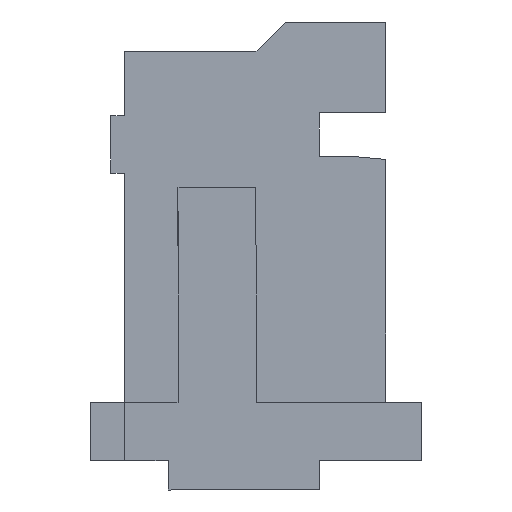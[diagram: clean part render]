
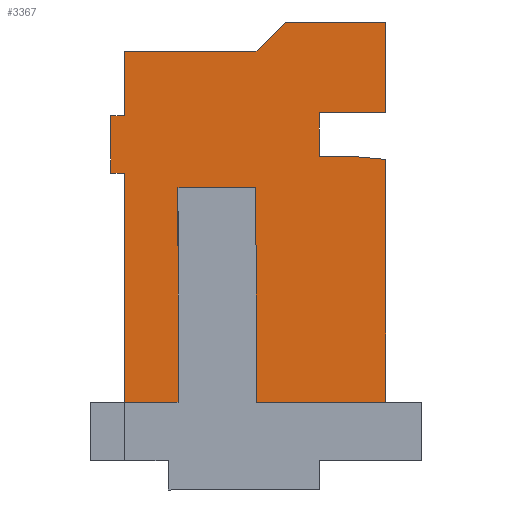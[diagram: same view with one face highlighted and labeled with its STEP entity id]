
A CAD part, left-side view. The second image highlights one B-rep face of the part: STEP entity #3367.
In plain terms, the highlighted planar face has unit normal (-1, 0, 0).
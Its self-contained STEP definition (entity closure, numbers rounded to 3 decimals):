
#208 = CARTESIAN_POINT ( 'NONE',  ( -3.2, -1.78, -2.7 ) ) ;
#209 = DIRECTION ( 'NONE',  ( 0., 0., 1. ) ) ;
#210 = VECTOR ( 'NONE', #209, 1000. ) ;
#211 = CARTESIAN_POINT ( 'NONE',  ( -3.2, -1.78, 1.2 ) ) ;
#212 = LINE ( 'NONE', #211, #210 ) ;
#213 = CARTESIAN_POINT ( 'NONE',  ( -3.2, 0.9, 0.24 ) ) ;
#290 = VECTOR ( 'NONE', #349, 1000. ) ;
#291 = CARTESIAN_POINT ( 'NONE',  ( -3.2, -1.78, 1.2 ) ) ;
#292 = LINE ( 'NONE', #291, #290 ) ;
#293 = CARTESIAN_POINT ( 'NONE',  ( -3.2, -0.75, 1.2 ) ) ;
#324 = DIRECTION ( 'NONE',  ( 0., 0.707, -0.707 ) ) ;
#325 = VECTOR ( 'NONE', #324, 1000. ) ;
#326 = CARTESIAN_POINT ( 'NONE',  ( -3.2, -0.75, 1.2 ) ) ;
#327 = LINE ( 'NONE', #326, #325 ) ;
#329 = CARTESIAN_POINT ( 'NONE',  ( -3.2, -0.45, 0.9 ) ) ;
#344 = CARTESIAN_POINT ( 'NONE',  ( -3.2, 0.9, 0.9 ) ) ;
#345 = DIRECTION ( 'NONE',  ( 0., 0., -1. ) ) ;
#346 = VECTOR ( 'NONE', #345, 1000. ) ;
#347 = CARTESIAN_POINT ( 'NONE',  ( -3.2, 0.9, 0.9 ) ) ;
#348 = LINE ( 'NONE', #347, #346 ) ;
#349 = DIRECTION ( 'NONE',  ( 0., 1., 0. ) ) ;
#434 = DIRECTION ( 'NONE',  ( 0., 1., 0. ) ) ;
#435 = VECTOR ( 'NONE', #434, 1000. ) ;
#436 = CARTESIAN_POINT ( 'NONE',  ( -3.2, -0.45, 0.9 ) ) ;
#437 = LINE ( 'NONE', #436, #435 ) ;
#657 = CARTESIAN_POINT ( 'NONE',  ( -3.2, -1.1, 0.27 ) ) ;
#691 = DIRECTION ( 'NONE',  ( 0., 1., 0. ) ) ;
#692 = VECTOR ( 'NONE', #691, 1000. ) ;
#693 = CARTESIAN_POINT ( 'NONE',  ( -3.2, 0.9, -0.18 ) ) ;
#694 = LINE ( 'NONE', #693, #692 ) ;
#700 = DIRECTION ( 'NONE',  ( 0., 0., -1. ) ) ;
#701 = VECTOR ( 'NONE', #700, 1000. ) ;
#702 = CARTESIAN_POINT ( 'NONE',  ( -3.2, 0.9, 0.9 ) ) ;
#703 = LINE ( 'NONE', #702, #701 ) ;
#751 = DIRECTION ( 'NONE',  ( 0., -1., 0. ) ) ;
#752 = VECTOR ( 'NONE', #751, 1000. ) ;
#753 = CARTESIAN_POINT ( 'NONE',  ( -3.2, 0.9, -2.7 ) ) ;
#754 = LINE ( 'NONE', #753, #752 ) ;
#756 = CARTESIAN_POINT ( 'NONE',  ( -3.2, 0.35, -2.7 ) ) ;
#766 = DIRECTION ( 'NONE',  ( 0., -1., 0. ) ) ;
#767 = VECTOR ( 'NONE', #766, 1000. ) ;
#768 = CARTESIAN_POINT ( 'NONE',  ( -3.2, -1.78, -2.7 ) ) ;
#769 = LINE ( 'NONE', #768, #767 ) ;
#770 = CARTESIAN_POINT ( 'NONE',  ( -3.2, -0.45, -2.7 ) ) ;
#771 = CARTESIAN_POINT ( 'NONE',  ( -3.2, -1.78, 1.2 ) ) ;
#922 = CARTESIAN_POINT ( 'NONE',  ( -3.2, 1.04, 0.24 ) ) ;
#923 = DIRECTION ( 'NONE',  ( 0., 1., 0. ) ) ;
#924 = VECTOR ( 'NONE', #923, 1000. ) ;
#925 = CARTESIAN_POINT ( 'NONE',  ( -3.2, 0.9, 0.24 ) ) ;
#926 = LINE ( 'NONE', #925, #924 ) ;
#994 = DIRECTION ( 'NONE',  ( 0., 0.996, 0.087 ) ) ;
#995 = VECTOR ( 'NONE', #994, 1000. ) ;
#996 = CARTESIAN_POINT ( 'NONE',  ( -3.2, 0.663, 0.005 ) ) ;
#997 = LINE ( 'NONE', #996, #995 ) ;
#1173 = DIRECTION ( 'NONE',  ( 0., 1., 0. ) ) ;
#1174 = DIRECTION ( 'NONE',  ( -1., 0., 0. ) ) ;
#1175 = CARTESIAN_POINT ( 'NONE',  ( -3.2, 0.9, -2.7 ) ) ;
#1176 = AXIS2_PLACEMENT_3D ( 'NONE', #1175, #1174, #1173 ) ;
#1177 = PLANE ( 'NONE',  #1176 ) ;
#1192 = FACE_OUTER_BOUND ( 'NONE', #3368, .T. ) ;
#1254 = DIRECTION ( 'NONE',  ( 0., -1., 0. ) ) ;
#1255 = VECTOR ( 'NONE', #1254, 1000. ) ;
#1256 = CARTESIAN_POINT ( 'NONE',  ( -3.2, 0.9, -0.35 ) ) ;
#1257 = LINE ( 'NONE', #1256, #1255 ) ;
#1281 = CARTESIAN_POINT ( 'NONE',  ( -3.2, 1.04, -0.35 ) ) ;
#1282 = DIRECTION ( 'NONE',  ( 0., 0., -1. ) ) ;
#1283 = VECTOR ( 'NONE', #1282, 1000. ) ;
#1284 = CARTESIAN_POINT ( 'NONE',  ( -3.2, 1.04, 0.24 ) ) ;
#1285 = LINE ( 'NONE', #1284, #1283 ) ;
#1310 = CARTESIAN_POINT ( 'NONE',  ( -3.2, 0.9, -0.35 ) ) ;
#1311 = DIRECTION ( 'NONE',  ( 0., 0., -1. ) ) ;
#1312 = VECTOR ( 'NONE', #1311, 1000. ) ;
#1313 = CARTESIAN_POINT ( 'NONE',  ( -3.2, -0.45, -2.7 ) ) ;
#1314 = LINE ( 'NONE', #1313, #1312 ) ;
#1315 = CARTESIAN_POINT ( 'NONE',  ( -3.2, -0.45, -0.5 ) ) ;
#1316 = DIRECTION ( 'NONE',  ( 0., -1., 0. ) ) ;
#1317 = VECTOR ( 'NONE', #1316, 1000. ) ;
#1318 = CARTESIAN_POINT ( 'NONE',  ( -3.2, -0.45, -0.5 ) ) ;
#1319 = LINE ( 'NONE', #1318, #1317 ) ;
#1320 = CARTESIAN_POINT ( 'NONE',  ( -3.2, 0.35, -0.5 ) ) ;
#1321 = DIRECTION ( 'NONE',  ( 0., 0., 1. ) ) ;
#1322 = VECTOR ( 'NONE', #1321, 1000. ) ;
#1323 = CARTESIAN_POINT ( 'NONE',  ( -3.2, 0.35, -2.7 ) ) ;
#1324 = LINE ( 'NONE', #1323, #1322 ) ;
#1401 = DIRECTION ( 'NONE',  ( 0., 0., 1. ) ) ;
#1435 = VECTOR ( 'NONE', #1401, 1000. ) ;
#1436 = CARTESIAN_POINT ( 'NONE',  ( -3.2, -1.1, -2.7 ) ) ;
#1437 = LINE ( 'NONE', #1436, #1435 ) ;
#1444 = CARTESIAN_POINT ( 'NONE',  ( -3.2, -1.1, -0.18 ) ) ;
#1498 = DIRECTION ( 'NONE',  ( 0., -1., 0. ) ) ;
#1499 = VECTOR ( 'NONE', #1498, 1000. ) ;
#1500 = CARTESIAN_POINT ( 'NONE',  ( -3.2, 0.9, 0.27 ) ) ;
#1501 = LINE ( 'NONE', #1500, #1499 ) ;
#1781 = CARTESIAN_POINT ( 'NONE',  ( -3.2, -1.45, -0.18 ) ) ;
#2688 = CARTESIAN_POINT ( 'NONE',  ( -3.2, -1.78, 0.27 ) ) ;
#2689 = DIRECTION ( 'NONE',  ( 0., 0., 1. ) ) ;
#2690 = VECTOR ( 'NONE', #2689, 1000. ) ;
#2691 = CARTESIAN_POINT ( 'NONE',  ( -3.2, -1.78, 1.2 ) ) ;
#2696 = LINE ( 'NONE', #2691, #2690 ) ;
#2790 = CARTESIAN_POINT ( 'NONE',  ( -3.2, 0.9, -2.7 ) ) ;
#2796 = CARTESIAN_POINT ( 'NONE',  ( -3.2, -1.78, -0.209 ) ) ;
#2915 = EDGE_CURVE ( 'NONE', #2916, #3251, #2696, .T. ) ;
#2916 = VERTEX_POINT ( 'NONE', #2688 ) ;
#2927 = VERTEX_POINT ( 'NONE', #2796 ) ;
#2932 = VERTEX_POINT ( 'NONE', #2790 ) ;
#2945 = VERTEX_POINT ( 'NONE', #213 ) ;
#2947 = EDGE_CURVE ( 'NONE', #2948, #2927, #212, .T. ) ;
#2948 = VERTEX_POINT ( 'NONE', #208 ) ;
#3041 = VERTEX_POINT ( 'NONE', #293 ) ;
#3043 = EDGE_CURVE ( 'NONE', #3251, #3041, #292, .T. ) ;
#3044 = EDGE_CURVE ( 'NONE', #3045, #2945, #348, .T. ) ;
#3045 = VERTEX_POINT ( 'NONE', #344 ) ;
#3055 = VERTEX_POINT ( 'NONE', #329 ) ;
#3057 = EDGE_CURVE ( 'NONE', #3041, #3055, #327, .T. ) ;
#3086 = EDGE_CURVE ( 'NONE', #3055, #3045, #437, .T. ) ;
#3164 = VERTEX_POINT ( 'NONE', #657 ) ;
#3251 = VERTEX_POINT ( 'NONE', #771 ) ;
#3252 = VERTEX_POINT ( 'NONE', #770 ) ;
#3253 = ORIENTED_EDGE ( 'NONE', *, *, #3254, .T. ) ;
#3254 = EDGE_CURVE ( 'NONE', #3252, #2948, #769, .T. ) ;
#3255 = ORIENTED_EDGE ( 'NONE', *, *, #2947, .T. ) ;
#3256 = ORIENTED_EDGE ( 'NONE', *, *, #3282, .T. ) ;
#3263 = VERTEX_POINT ( 'NONE', #756 ) ;
#3265 = EDGE_CURVE ( 'NONE', #2932, #3263, #754, .T. ) ;
#3270 = EDGE_CURVE ( 'NONE', #3382, #2932, #703, .T. ) ;
#3274 = EDGE_CURVE ( 'NONE', #3504, #3493, #694, .T. ) ;
#3282 = EDGE_CURVE ( 'NONE', #2927, #3504, #997, .T. ) ;
#3350 = ORIENTED_EDGE ( 'NONE', *, *, #3086, .T. ) ;
#3351 = ORIENTED_EDGE ( 'NONE', *, *, #3044, .T. ) ;
#3352 = ORIENTED_EDGE ( 'NONE', *, *, #3353, .T. ) ;
#3353 = EDGE_CURVE ( 'NONE', #2945, #3354, #926, .T. ) ;
#3354 = VERTEX_POINT ( 'NONE', #922 ) ;
#3355 = ORIENTED_EDGE ( 'NONE', *, *, #3356, .T. ) ;
#3356 = EDGE_CURVE ( 'NONE', #3354, #3357, #1285, .T. ) ;
#3357 = VERTEX_POINT ( 'NONE', #1281 ) ;
#3358 = ORIENTED_EDGE ( 'NONE', *, *, #3359, .T. ) ;
#3359 = EDGE_CURVE ( 'NONE', #3357, #3382, #1257, .T. ) ;
#3360 = ORIENTED_EDGE ( 'NONE', *, *, #3270, .T. ) ;
#3361 = ORIENTED_EDGE ( 'NONE', *, *, #3265, .T. ) ;
#3367 = ADVANCED_FACE ( 'NONE', ( #1192 ), #1177, .T. ) ;
#3368 = EDGE_LOOP ( 'NONE', ( #3369, #3370, #3371, #3372, #3373, #3350, #3351, #3352, #3355, #3358, #3360, #3361, #3374, #3377, #3380, #3253, #3255, #3256, #3487 ) ) ;
#3369 = ORIENTED_EDGE ( 'NONE', *, *, #3499, .T. ) ;
#3370 = ORIENTED_EDGE ( 'NONE', *, *, #3489, .T. ) ;
#3371 = ORIENTED_EDGE ( 'NONE', *, *, #2915, .T. ) ;
#3372 = ORIENTED_EDGE ( 'NONE', *, *, #3043, .T. ) ;
#3373 = ORIENTED_EDGE ( 'NONE', *, *, #3057, .T. ) ;
#3374 = ORIENTED_EDGE ( 'NONE', *, *, #3375, .T. ) ;
#3375 = EDGE_CURVE ( 'NONE', #3263, #3376, #1324, .T. ) ;
#3376 = VERTEX_POINT ( 'NONE', #1320 ) ;
#3377 = ORIENTED_EDGE ( 'NONE', *, *, #3378, .T. ) ;
#3378 = EDGE_CURVE ( 'NONE', #3376, #3379, #1319, .T. ) ;
#3379 = VERTEX_POINT ( 'NONE', #1315 ) ;
#3380 = ORIENTED_EDGE ( 'NONE', *, *, #3381, .T. ) ;
#3381 = EDGE_CURVE ( 'NONE', #3379, #3252, #1314, .T. ) ;
#3382 = VERTEX_POINT ( 'NONE', #1310 ) ;
#3487 = ORIENTED_EDGE ( 'NONE', *, *, #3274, .T. ) ;
#3489 = EDGE_CURVE ( 'NONE', #3164, #2916, #1501, .T. ) ;
#3493 = VERTEX_POINT ( 'NONE', #1444 ) ;
#3499 = EDGE_CURVE ( 'NONE', #3493, #3164, #1437, .T. ) ;
#3504 = VERTEX_POINT ( 'NONE', #1781 ) ;
